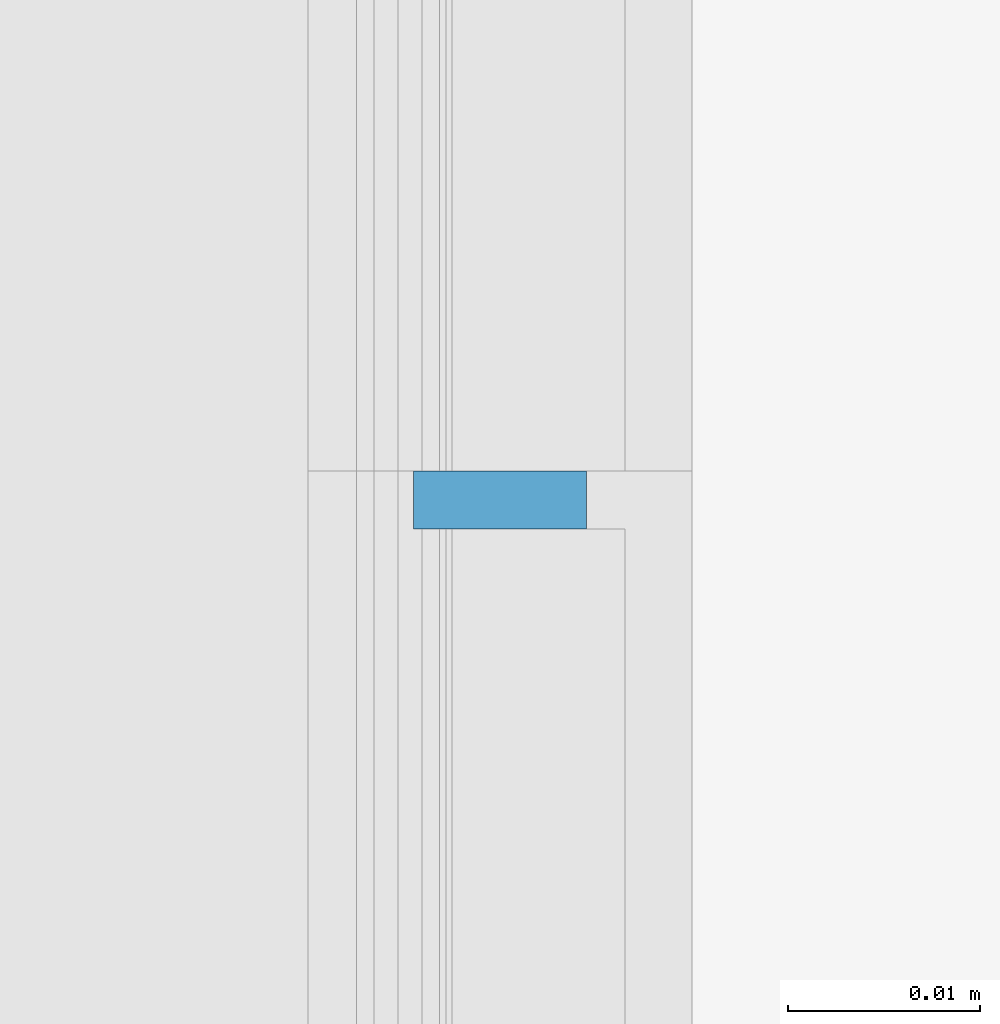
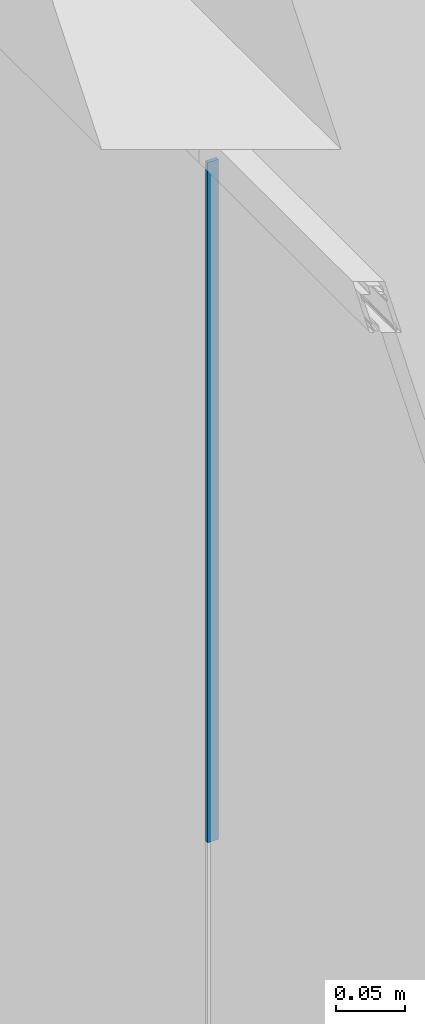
# One storey, part 13 of 387: 1 member, 1 element without a shape of its own.
"""IFC2X3 building model written with IfcOpenShell, lengths in millimetres."""

from ifc_helpers import new_model, entity, si_unit, converted_unit, derived_unit, money_unit, direction, frame, origin_with_axes, place, context, subcontext, project, spatial, polyline, outline, extrude, material, type_object, element, aggregate, save


model = new_model("IFC2X3")

# Units and contexts
model_context = context("Model", 3, precision=0.01, world=origin_with_axes(), true_north=direction((0.0, 1.0)))
body_context = subcontext(model_context, "Body", "Model", "MODEL_VIEW")
ifc_project = project(units=[si_unit("LENGTHUNIT", "METRE", prefix="MILLI"), si_unit("AREAUNIT", "SQUARE_METRE"), si_unit("VOLUMEUNIT", "CUBIC_METRE"), converted_unit("PLANEANGLEUNIT", "DEGREE", entity("IfcPlaneAngleMeasure", 0.0174532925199), si_unit("PLANEANGLEUNIT", "RADIAN"), dimensions=[0, 0, 0, 0, 0, 0, 0]), si_unit("SOLIDANGLEUNIT", "STERADIAN"), money_unit("EUR"), converted_unit("TIMEUNIT", "Year", entity("IfcTimeMeasure", 31556926.0), si_unit("TIMEUNIT", "SECOND"), dimensions=[0, 0, 1, 0, 0, 0, 0]), si_unit("MASSUNIT", "GRAM", prefix="KILO"), si_unit("THERMODYNAMICTEMPERATUREUNIT", "DEGREE_CELSIUS"), si_unit("LUMINOUSINTENSITYUNIT", "LUMEN"), si_unit("ENERGYUNIT", "JOULE", prefix="MEGA"), derived_unit("THERMALCONDUCTANCEUNIT", [(si_unit("POWERUNIT", "WATT"), 1), (si_unit("LENGTHUNIT", "METRE"), -1), (si_unit("THERMODYNAMICTEMPERATUREUNIT", "KELVIN"), -1)]), derived_unit("SPECIFICHEATCAPACITYUNIT", [(si_unit("ENERGYUNIT", "JOULE"), 1), (si_unit("MASSUNIT", "GRAM", prefix="KILO"), -1), (si_unit("THERMODYNAMICTEMPERATUREUNIT", "KELVIN"), -1)]), derived_unit("MASSDENSITYUNIT", [(si_unit("MASSUNIT", "GRAM", prefix="KILO"), 1), (si_unit("VOLUMEUNIT", "CUBIC_METRE"), -1)])], contexts=[model_context])

# Site, building, storey
site_placement = place(None, origin_with_axes())
site = spatial("IfcSite", under=ifc_project, at=site_placement, Name="Puškini 31, Narva", CompositionType="ELEMENT")
building_placement = place(site_placement, origin_with_axes())
building = spatial("IfcBuilding", under=site, at=building_placement, Name="Narva Riigigümnaasium", CompositionType="ELEMENT")
storey_placement = place(building_placement, frame((0.0, 0.0, 2640.0), z_axis=(0.0, 0.0, 1.0), x_axis=(1.0, 0.0, 0.0)))
storey = spatial("IfcBuildingStorey", under=building, at=storey_placement, Name="2.korrus +2.64", CompositionType="ELEMENT", Elevation=2640.0)

# Curtain wall, member
curtain_wall_type = type_object("IfcCurtainWallType", Name="Curtain Wall Type", PredefinedType="NOTDEFINED")
curtain_wall_placement = place(storey_placement, frame((28389.9972784, 170114.499914, -5.2224053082e-05), z_axis=(0.0, 0.0, 1.0), x_axis=(1.0, 0.0, 0.0)))
curtain_wall = element("IfcCurtainWall", 1, at=curtain_wall_placement, inside=storey, type_object=curtain_wall_type, Name="G-SKLF-15.2")
ifc_material = material(Name="VMR-03_Membraan - Veekindel")
member_type = type_object("IfcMemberType", Name="3 x 5", PredefinedType="MULLION")
member_placement = place(curtain_wall_placement, frame((1.76108017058e-08, 660.50001258, 2400.00005222), z_axis=(0.0, 0.0, 1.0), x_axis=(0.0, -1.0, 0.0)))
member = element("IfcMember", 2, at=member_placement, type_object=member_type, material=ifc_material, Name="Frame-Siseklaasf-078", ObjectType="MULLION", context=body_context, shape_type="SweptSolid", body=[
    extrude(outline(polyline([(4.5, -1.13686837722e-10), (-4.5, 0.0), (-4.50000000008, -2.9999999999), (4.49999999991, -3.00000000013), (4.5, -1.13686837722e-10)])), frame((0.0, 0.0, 0.0), z_axis=(0.0, 0.0, 1.0), x_axis=(0.0, 1.0, 0.0)), (0.0, 0.0, 1.0), 599.999952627),
])
aggregate(curtain_wall, [member])

save(model, "model.ifc")
